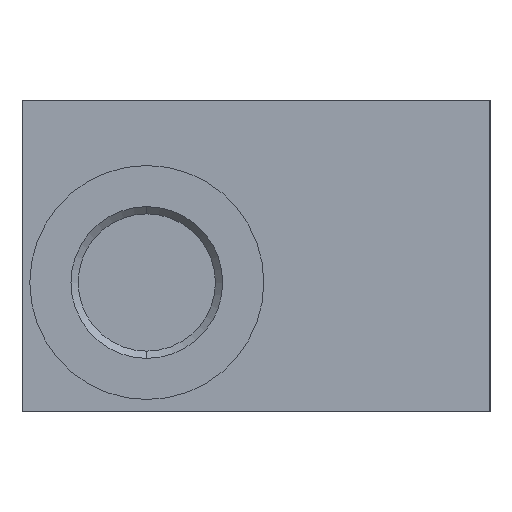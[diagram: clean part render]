
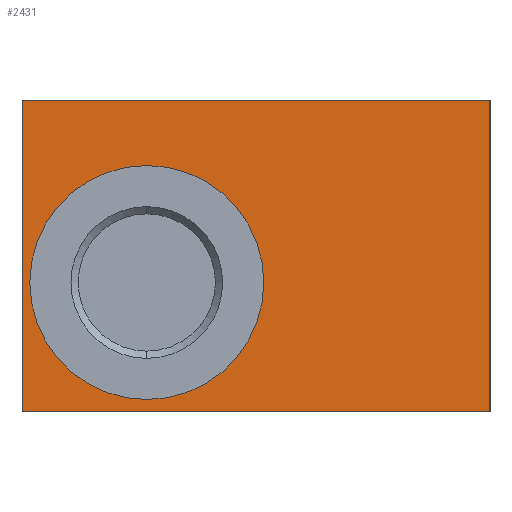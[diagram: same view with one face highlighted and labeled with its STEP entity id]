
A CAD part, left-side view. The second image highlights one B-rep face of the part: STEP entity #2431.
In plain terms, the highlighted planar face has unit normal (-1, 0, 0).
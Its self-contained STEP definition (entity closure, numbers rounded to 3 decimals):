
#22=DIRECTION('',(0.,-1.,0.));
#23=VECTOR('',#22,30.);
#24=CARTESIAN_POINT('',(-101.5,15.,0.));
#25=LINE('91',#24,#23);
#71=DIRECTION('',(0.,-1.,0.));
#72=VECTOR('',#71,30.);
#73=CARTESIAN_POINT('',(-101.5,15.,20.));
#74=LINE('100',#73,#72);
#347=DIRECTION('',(0.,0.,1.));
#348=VECTOR('',#347,20.);
#349=CARTESIAN_POINT('',(-101.5,15.,0.));
#350=LINE('113',#349,#348);
#351=CARTESIAN_POINT('',(-101.5,7.,8.3));
#352=DIRECTION('',(-1.,0.,0.));
#353=DIRECTION('',(0.,0.,1.));
#354=AXIS2_PLACEMENT_3D('',#351,#352,#353);
#356=CARTESIAN_POINT('',(-101.5,7.,8.3));
#357=DIRECTION('',(-1.,0.,0.));
#358=DIRECTION('',(0.,0.,-1.));
#359=AXIS2_PLACEMENT_3D('',#356,#357,#358);
#379=DIRECTION('',(0.,0.,1.));
#380=VECTOR('',#379,20.);
#381=CARTESIAN_POINT('',(-101.5,-15.,0.));
#382=LINE('115',#381,#380);
#1672=CARTESIAN_POINT('',(-101.5,15.,0.));
#1673=CARTESIAN_POINT('',(-101.5,-15.,0.));
#1674=VERTEX_POINT('',#1672);
#1675=VERTEX_POINT('',#1673);
#1680=CARTESIAN_POINT('',(-101.5,15.,20.));
#1681=CARTESIAN_POINT('',(-101.5,-15.,20.));
#1682=VERTEX_POINT('',#1680);
#1683=VERTEX_POINT('',#1681);
#1716=CARTESIAN_POINT('',(-101.5,7.,15.8));
#1717=CARTESIAN_POINT('',(-101.5,7.,0.8));
#1718=VERTEX_POINT('',#1716);
#1719=VERTEX_POINT('',#1717);
#2412=CARTESIAN_POINT('',(-101.5,15.,0.));
#2413=DIRECTION('',(-1.,0.,0.));
#2414=DIRECTION('',(0.,-1.,0.));
#2415=AXIS2_PLACEMENT_3D('',#2412,#2413,#2414);
#2416=PLANE('112',#2415);
#2417=ORIENTED_EDGE('91',*,*,#2153,.F.);
#2419=ORIENTED_EDGE('113',*,*,#2418,.T.);
#2420=ORIENTED_EDGE('100',*,*,#2246,.T.);
#2422=ORIENTED_EDGE('115',*,*,#2421,.F.);
#2423=EDGE_LOOP('112',(#2417,#2419,#2420,#2422));
#2424=FACE_OUTER_BOUND('112',#2423,.F.);
#2426=ORIENTED_EDGE('3801',*,*,#2425,.T.);
#2428=ORIENTED_EDGE('3802',*,*,#2427,.T.);
#2429=EDGE_LOOP('112',(#2426,#2428));
#2430=FACE_BOUND('112',#2429,.F.);
#2431=ADVANCED_FACE('112',(#2424,#2430),#2416,.T.);
#355=CIRCLE('3801',#354,7.5);
#360=CIRCLE('3802',#359,7.5);
#2153=EDGE_CURVE('91',#1674,#1675,#25,.T.);
#2246=EDGE_CURVE('100',#1682,#1683,#74,.T.);
#2418=EDGE_CURVE('113',#1674,#1682,#350,.T.);
#2421=EDGE_CURVE('115',#1675,#1683,#382,.T.);
#2425=EDGE_CURVE('3801',#1718,#1719,#355,.T.);
#2427=EDGE_CURVE('3802',#1719,#1718,#360,.T.);
